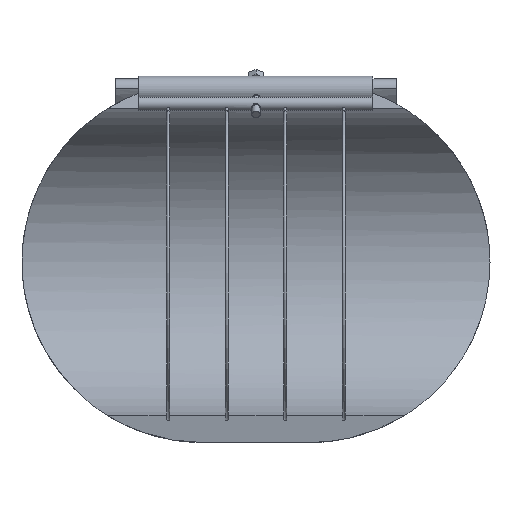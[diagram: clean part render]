
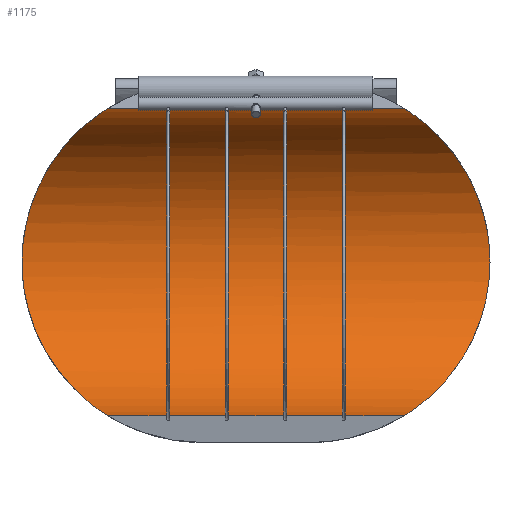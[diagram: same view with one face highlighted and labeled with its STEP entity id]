
A CAD part, front view. The second image highlights one B-rep face of the part: STEP entity #1175.
In plain terms, the highlighted cylindrical face has radius 112.5 mm (diameter 225 mm), a partial arc.
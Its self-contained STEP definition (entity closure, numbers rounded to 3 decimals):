
#127=FACE_OUTER_BOUND('',#207,.T.);
#207=EDGE_LOOP('',(#1046,#1047,#1048,#1049,#1050,#1051,#1052,#1053,#1054,
#1055));
#258=B_SPLINE_CURVE_WITH_KNOTS('',3,(#2654,#2655,#2656,#2657,#2658,#2659,
#2660,#2661,#2662,#2663,#2664,#2665,#2666,#2667,#2668,#2669,#2670,#2671),
 .UNSPECIFIED.,.F.,.F.,(4,2,2,2,2,2,2,2,4),(39.166,39.535,
41.919,44.303,46.687,48.947,51.206,
53.466,55.726),.UNSPECIFIED.);
#259=B_SPLINE_CURVE_WITH_KNOTS('',3,(#2672,#2673,#2674,#2675,#2676,#2677,
#2678,#2679,#2680,#2681,#2682,#2683,#2684,#2685,#2686,#2687,#2688,#2689),
 .UNSPECIFIED.,.F.,.F.,(4,2,2,2,2,2,2,2,4),(55.726,57.985,
60.245,62.505,64.764,67.149,69.533,
71.917,72.285),.UNSPECIFIED.);
#264=B_SPLINE_CURVE_WITH_KNOTS('',3,(#2801,#2802,#2803,#2804,#2805,#2806,
#2807,#2808,#2809,#2810,#2811,#2812,#2813,#2814,#2815,#2816,#2817,#2818),
 .UNSPECIFIED.,.F.,.F.,(4,2,2,2,2,2,2,2,4),(2.016,2.384,
4.768,7.152,9.537,11.796,14.056,
16.316,18.575),.UNSPECIFIED.);
#265=B_SPLINE_CURVE_WITH_KNOTS('',3,(#2820,#2821,#2822,#2823,#2824,#2825,
#2826,#2827,#2828,#2829,#2830,#2831,#2832,#2833,#2834,#2835,#2836,#2837),
 .UNSPECIFIED.,.F.,.F.,(4,2,2,2,2,2,2,2,4),(18.575,20.835,
23.095,25.354,27.614,29.998,32.382,
34.766,35.135),.UNSPECIFIED.);
#338=LINE('',#1953,#399);
#339=LINE('',#1956,#400);
#340=LINE('',#1959,#401);
#341=LINE('',#1961,#402);
#342=LINE('',#1962,#403);
#386=LINE('',#2879,#447);
#399=VECTOR('',#1376,10.);
#400=VECTOR('',#1379,10.);
#401=VECTOR('',#1382,10.);
#402=VECTOR('',#1385,10.);
#403=VECTOR('',#1386,10.);
#447=VECTOR('',#1622,10.);
#473=VERTEX_POINT('',#1941);
#475=VERTEX_POINT('',#1946);
#477=VERTEX_POINT('',#1950);
#478=VERTEX_POINT('',#1952);
#479=VERTEX_POINT('',#1955);
#480=VERTEX_POINT('',#1958);
#550=VERTEX_POINT('',#2651);
#551=VERTEX_POINT('',#2653);
#556=VERTEX_POINT('',#2800);
#557=VERTEX_POINT('',#2819);
#596=EDGE_CURVE('',#478,#477,#338,.T.);
#598=EDGE_CURVE('',#479,#478,#339,.T.);
#600=EDGE_CURVE('',#480,#479,#340,.T.);
#602=EDGE_CURVE('',#473,#480,#341,.T.);
#603=EDGE_CURVE('',#475,#473,#342,.T.);
#719=EDGE_CURVE('',#550,#551,#258,.T.);
#720=EDGE_CURVE('',#551,#477,#259,.T.);
#725=EDGE_CURVE('',#475,#556,#264,.T.);
#726=EDGE_CURVE('',#556,#557,#265,.T.);
#730=EDGE_CURVE('',#550,#557,#386,.T.);
#1046=ORIENTED_EDGE('',*,*,#725,.F.);
#1047=ORIENTED_EDGE('',*,*,#603,.T.);
#1048=ORIENTED_EDGE('',*,*,#602,.T.);
#1049=ORIENTED_EDGE('',*,*,#600,.T.);
#1050=ORIENTED_EDGE('',*,*,#598,.T.);
#1051=ORIENTED_EDGE('',*,*,#596,.T.);
#1052=ORIENTED_EDGE('',*,*,#720,.F.);
#1053=ORIENTED_EDGE('',*,*,#719,.F.);
#1054=ORIENTED_EDGE('',*,*,#730,.T.);
#1055=ORIENTED_EDGE('',*,*,#726,.F.);
#1116=CYLINDRICAL_SURFACE('',#1319,112.5);
#1175=ADVANCED_FACE('',(#127),#1116,.F.);
#1319=AXIS2_PLACEMENT_3D('',#2878,#1620,#1621);
#1376=DIRECTION('',(1.,0.,0.));
#1379=DIRECTION('',(1.,0.,0.));
#1382=DIRECTION('',(1.,0.,0.));
#1385=DIRECTION('',(1.,0.,0.));
#1386=DIRECTION('',(1.,0.,0.));
#1620=DIRECTION('center_axis',(1.,0.,0.));
#1621=DIRECTION('ref_axis',(0.,1.,0.));
#1622=DIRECTION('',(-1.,0.,0.));
#1941=CARTESIAN_POINT('',(-63.375,19.535,-110.791));
#1946=CARTESIAN_POINT('',(-107.273,19.535,-110.791));
#1950=CARTESIAN_POINT('',(107.273,19.535,-110.791));
#1952=CARTESIAN_POINT('',(63.375,19.535,-110.791));
#1953=CARTESIAN_POINT('',(0.,19.535,-110.791));
#1955=CARTESIAN_POINT('',(21.125,19.535,-110.791));
#1956=CARTESIAN_POINT('',(0.,19.535,-110.791));
#1958=CARTESIAN_POINT('',(-21.125,19.535,-110.791));
#1959=CARTESIAN_POINT('',(0.,19.535,-110.791));
#1961=CARTESIAN_POINT('',(0.,19.535,-110.791));
#1962=CARTESIAN_POINT('',(0.,19.535,-110.791));
#2651=CARTESIAN_POINT('',(107.273,19.535,110.791));
#2653=CARTESIAN_POINT('',(169.,112.5,0.));
#2654=CARTESIAN_POINT('Ctrl Pts',(107.273,19.535,110.791));
#2655=CARTESIAN_POINT('Ctrl Pts',(107.601,20.686,110.588));
#2656=CARTESIAN_POINT('Ctrl Pts',(107.953,21.83,110.368));
#2657=CARTESIAN_POINT('Ctrl Pts',(110.755,30.321,108.597));
#2658=CARTESIAN_POINT('Ctrl Pts',(114.109,37.377,106.361));
#2659=CARTESIAN_POINT('Ctrl Pts',(121.603,50.825,100.631));
#2660=CARTESIAN_POINT('Ctrl Pts',(125.74,57.213,97.132));
#2661=CARTESIAN_POINT('Ctrl Pts',(133.984,69.111,89.06));
#2662=CARTESIAN_POINT('Ctrl Pts',(138.092,74.616,84.483));
#2663=CARTESIAN_POINT('Ctrl Pts',(145.501,84.226,74.873));
#2664=CARTESIAN_POINT('Ctrl Pts',(149.101,88.727,69.535));
#2665=CARTESIAN_POINT('Ctrl Pts',(155.716,96.834,57.714));
#2666=CARTESIAN_POINT('Ctrl Pts',(158.73,100.439,51.229));
#2667=CARTESIAN_POINT('Ctrl Pts',(163.715,106.347,37.454));
#2668=CARTESIAN_POINT('Ctrl Pts',(165.692,108.654,30.147));
#2669=CARTESIAN_POINT('Ctrl Pts',(168.335,111.732,15.186));
#2670=CARTESIAN_POINT('Ctrl Pts',(169.,112.5,7.532));
#2671=CARTESIAN_POINT('Ctrl Pts',(169.,112.5,0.));
#2672=CARTESIAN_POINT('Ctrl Pts',(169.,112.5,0.));
#2673=CARTESIAN_POINT('Ctrl Pts',(169.,112.5,-7.532));
#2674=CARTESIAN_POINT('Ctrl Pts',(168.335,111.732,-15.186));
#2675=CARTESIAN_POINT('Ctrl Pts',(165.692,108.654,-30.147));
#2676=CARTESIAN_POINT('Ctrl Pts',(163.715,106.347,-37.454));
#2677=CARTESIAN_POINT('Ctrl Pts',(158.73,100.439,-51.229));
#2678=CARTESIAN_POINT('Ctrl Pts',(155.716,96.834,-57.714));
#2679=CARTESIAN_POINT('Ctrl Pts',(149.101,88.727,-69.535));
#2680=CARTESIAN_POINT('Ctrl Pts',(145.501,84.226,-74.873));
#2681=CARTESIAN_POINT('Ctrl Pts',(138.092,74.616,-84.483));
#2682=CARTESIAN_POINT('Ctrl Pts',(133.984,69.111,-89.06));
#2683=CARTESIAN_POINT('Ctrl Pts',(125.74,57.213,-97.132));
#2684=CARTESIAN_POINT('Ctrl Pts',(121.603,50.825,-100.631));
#2685=CARTESIAN_POINT('Ctrl Pts',(114.109,37.377,-106.361));
#2686=CARTESIAN_POINT('Ctrl Pts',(110.755,30.321,-108.597));
#2687=CARTESIAN_POINT('Ctrl Pts',(107.953,21.83,-110.368));
#2688=CARTESIAN_POINT('Ctrl Pts',(107.601,20.686,-110.588));
#2689=CARTESIAN_POINT('Ctrl Pts',(107.273,19.535,-110.791));
#2800=CARTESIAN_POINT('',(-169.,112.5,0.));
#2801=CARTESIAN_POINT('Ctrl Pts',(-107.273,19.535,-110.791));
#2802=CARTESIAN_POINT('Ctrl Pts',(-107.601,20.686,-110.588));
#2803=CARTESIAN_POINT('Ctrl Pts',(-107.953,21.83,-110.368));
#2804=CARTESIAN_POINT('Ctrl Pts',(-110.755,30.321,-108.597));
#2805=CARTESIAN_POINT('Ctrl Pts',(-114.109,37.377,-106.361));
#2806=CARTESIAN_POINT('Ctrl Pts',(-121.603,50.825,-100.631));
#2807=CARTESIAN_POINT('Ctrl Pts',(-125.74,57.213,-97.132));
#2808=CARTESIAN_POINT('Ctrl Pts',(-133.984,69.111,-89.06));
#2809=CARTESIAN_POINT('Ctrl Pts',(-138.092,74.616,-84.483));
#2810=CARTESIAN_POINT('Ctrl Pts',(-145.501,84.226,-74.873));
#2811=CARTESIAN_POINT('Ctrl Pts',(-149.101,88.727,-69.535));
#2812=CARTESIAN_POINT('Ctrl Pts',(-155.716,96.834,-57.714));
#2813=CARTESIAN_POINT('Ctrl Pts',(-158.73,100.439,-51.229));
#2814=CARTESIAN_POINT('Ctrl Pts',(-163.715,106.347,-37.454));
#2815=CARTESIAN_POINT('Ctrl Pts',(-165.692,108.654,-30.147));
#2816=CARTESIAN_POINT('Ctrl Pts',(-168.335,111.732,-15.186));
#2817=CARTESIAN_POINT('Ctrl Pts',(-169.,112.5,-7.532));
#2818=CARTESIAN_POINT('Ctrl Pts',(-169.,112.5,0.));
#2819=CARTESIAN_POINT('',(-107.273,19.535,110.791));
#2820=CARTESIAN_POINT('Ctrl Pts',(-169.,112.5,0.));
#2821=CARTESIAN_POINT('Ctrl Pts',(-169.,112.5,7.532));
#2822=CARTESIAN_POINT('Ctrl Pts',(-168.335,111.732,15.186));
#2823=CARTESIAN_POINT('Ctrl Pts',(-165.692,108.654,30.147));
#2824=CARTESIAN_POINT('Ctrl Pts',(-163.715,106.347,37.454));
#2825=CARTESIAN_POINT('Ctrl Pts',(-158.73,100.439,51.229));
#2826=CARTESIAN_POINT('Ctrl Pts',(-155.716,96.834,57.714));
#2827=CARTESIAN_POINT('Ctrl Pts',(-149.101,88.727,69.535));
#2828=CARTESIAN_POINT('Ctrl Pts',(-145.501,84.226,74.873));
#2829=CARTESIAN_POINT('Ctrl Pts',(-138.092,74.616,84.483));
#2830=CARTESIAN_POINT('Ctrl Pts',(-133.984,69.111,89.06));
#2831=CARTESIAN_POINT('Ctrl Pts',(-125.74,57.213,97.132));
#2832=CARTESIAN_POINT('Ctrl Pts',(-121.603,50.825,100.631));
#2833=CARTESIAN_POINT('Ctrl Pts',(-114.109,37.377,106.361));
#2834=CARTESIAN_POINT('Ctrl Pts',(-110.755,30.321,108.597));
#2835=CARTESIAN_POINT('Ctrl Pts',(-107.953,21.83,110.368));
#2836=CARTESIAN_POINT('Ctrl Pts',(-107.601,20.686,110.588));
#2837=CARTESIAN_POINT('Ctrl Pts',(-107.273,19.535,110.791));
#2878=CARTESIAN_POINT('Origin',(0.,0.,0.));
#2879=CARTESIAN_POINT('',(0.,19.535,110.791));
